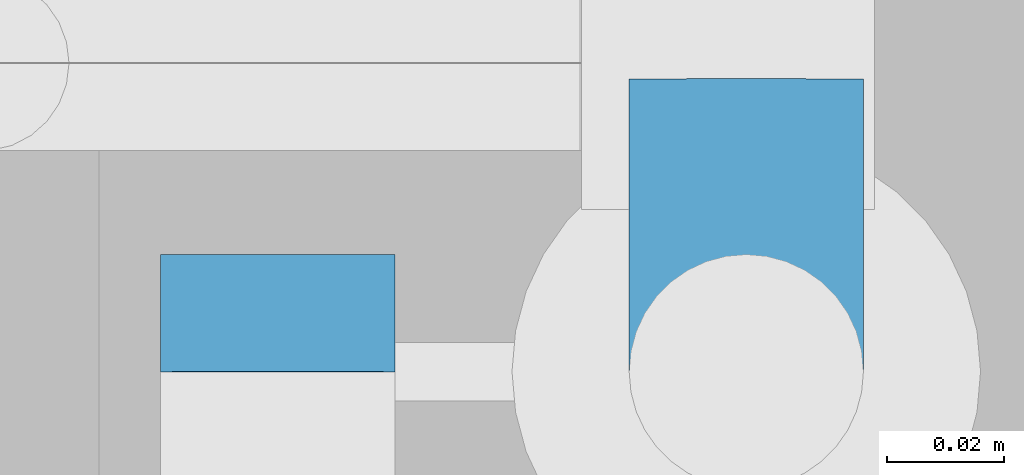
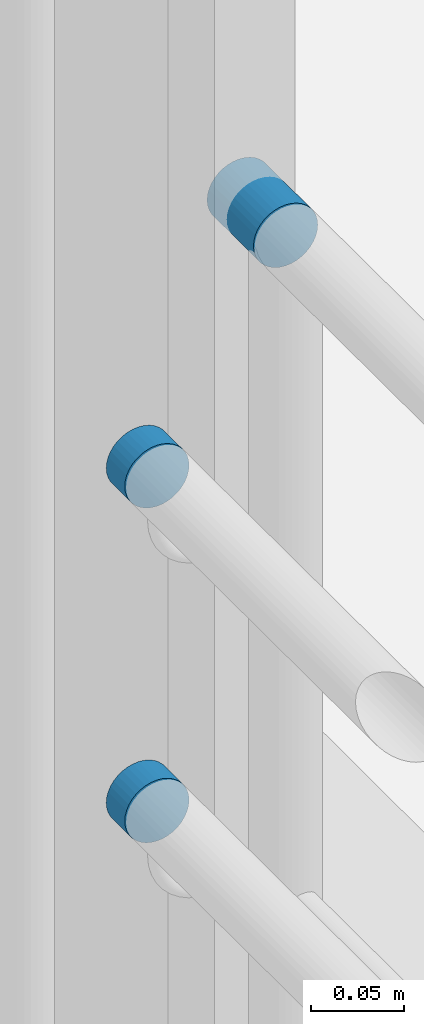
# One storey, part 147 of 237: 3 building element parts, 1 element without a shape of its own.
"""IFC2X3 building model written with IfcOpenShell, lengths in millimetres."""

from ifc_helpers import new_model, entity, si_unit, converted_unit, derived_unit, money_unit, direction, frame, origin_with_axes, place, context, subcontext, project, spatial, faceted_brep, material, type_object, element, aggregate, save


model = new_model("IFC2X3")

# Units and contexts
model_context = context("Model", 3, precision=0.01, world=origin_with_axes(), true_north=direction((0.0, 1.0)))
body_context = subcontext(model_context, "Body", "Model", "MODEL_VIEW")
ifc_project = project(units=[si_unit("LENGTHUNIT", "METRE", prefix="MILLI"), si_unit("AREAUNIT", "SQUARE_METRE"), si_unit("VOLUMEUNIT", "CUBIC_METRE"), converted_unit("PLANEANGLEUNIT", "DEGREE", entity("IfcPlaneAngleMeasure", 0.0174532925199), si_unit("PLANEANGLEUNIT", "RADIAN"), dimensions=[0, 0, 0, 0, 0, 0, 0]), money_unit("USD"), converted_unit("TIMEUNIT", "Year", entity("IfcTimeMeasure", 31556926.0), si_unit("TIMEUNIT", "SECOND"), dimensions=[0, 0, 1, 0, 0, 0, 0]), si_unit("MASSUNIT", "GRAM", prefix="KILO"), si_unit("THERMODYNAMICTEMPERATUREUNIT", "DEGREE_CELSIUS"), si_unit("LUMINOUSINTENSITYUNIT", "LUMEN"), si_unit("ENERGYUNIT", "JOULE", prefix="MEGA"), derived_unit("THERMALCONDUCTANCEUNIT", [(si_unit("POWERUNIT", "WATT"), 1), (si_unit("LENGTHUNIT", "METRE"), -1), (si_unit("THERMODYNAMICTEMPERATUREUNIT", "KELVIN"), -1)]), derived_unit("SPECIFICHEATCAPACITYUNIT", [(si_unit("ENERGYUNIT", "JOULE"), 1), (si_unit("MASSUNIT", "GRAM", prefix="KILO"), -1), (si_unit("THERMODYNAMICTEMPERATUREUNIT", "KELVIN"), -1)]), derived_unit("MASSDENSITYUNIT", [(si_unit("MASSUNIT", "GRAM", prefix="KILO"), 1), (si_unit("VOLUMEUNIT", "CUBIC_METRE"), -1)])], contexts=[model_context])

# Site, building, storey
site_placement = place(None, origin_with_axes())
site = spatial("IfcSite", under=ifc_project, at=site_placement, Name="Local", CompositionType="ELEMENT")
building_placement = place(site_placement, origin_with_axes())
building = spatial("IfcBuilding", under=site, at=building_placement, Name="Construção", CompositionType="ELEMENT")
storey_placement = place(building_placement, origin_with_axes())
storey = spatial("IfcBuildingStorey", under=building, at=storey_placement, Name="Pavimento Térreo", CompositionType="ELEMENT", Elevation=0.0)

# Railing, building element parts
railing_type = type_object("IfcRailingType", Name="Tipo de Guarda-Corpo", PredefinedType="NOTDEFINED")
railing_placement = place(storey_placement, frame((84562.8908804, 21657.2175927, -4868.39227091), z_axis=(0.0, 0.0, 1.0), x_axis=(1.0, 0.0, 0.0)))
railing = element("IfcRailing", 1, at=railing_placement, inside=storey, type_object=railing_type, Name="Guarda-Corpo - 002", PredefinedType="NOTDEFINED")
ifc_material = material(Name="Aço - Inoxidável")
building_element_part_1_placement = place(railing_placement, origin_with_axes())
building_element_part_1 = element("IfcBuildingElementPart", 2, at=building_element_part_1_placement, material=ifc_material, Name="Aço - Inoxidável", context=body_context, shape_type="Brep", body=[
    faceted_brep([(2010.50016915, 5592.1917422, 2028.38433584), (2010.80401409, 5592.20155853, 2031.85728552), (2010.80401409, 5612.20147864, 2031.8007555), (2010.50016915, 5612.1916623, 2028.32780582), (2010.80401409, 5592.18192586, 2024.91138616), (2011.70631674, 5592.17240779, 2021.54396029), (2013.17966108, 5592.16347719, 2018.38437578), (2015.17928029, 5592.1554054, 2015.528635), (2017.64441696, 5592.14843769, 2013.06350817), (2020.50016915, 5592.14278577, 2011.06389695), (2023.65976628, 5592.13862136, 2009.59055849), (2027.0272056, 5592.136071, 2008.68825945), (2030.50016915, 5592.13521218, 2008.38441573), (2033.9731327, 5592.136071, 2008.68825945), (2037.34057202, 5592.13862136, 2009.59055849), (2040.50016915, 5592.14278577, 2011.06389695), (2043.35592134, 5592.14843769, 2013.06350817), (2045.82105801, 5592.1554054, 2015.528635), (2047.82067723, 5592.16347719, 2018.38437578), (2049.29402157, 5592.17240779, 2021.54396029), (2050.19632421, 5592.18192586, 2024.91138616), (2050.50016915, 5592.1917422, 2028.38433584), (2050.19632421, 5592.20155853, 2031.85728552), (2049.29402157, 5592.2110766, 2035.22471138), (2047.82067723, 5592.2200072, 2038.38429589), (2045.82105801, 5592.22807899, 2041.24003668), (2043.35592134, 5592.2350467, 2043.7051635), (2040.50016915, 5592.24069862, 2045.70477472), (2037.34057202, 5592.24486303, 2047.17811318), (2033.9731327, 5592.24741339, 2048.08041222), (2030.50016915, 5592.24827221, 2048.38425594), (2027.0272056, 5592.24741339, 2048.08041222), (2023.65976628, 5592.24486303, 2047.17811318), (2020.50016915, 5592.24069862, 2045.70477472), (2017.64441696, 5592.2350467, 2043.7051635), (2015.17928029, 5592.22807899, 2041.24003668), (2013.17966108, 5592.2200072, 2038.38429589), (2011.70631674, 5592.2110766, 2035.22471138), (2011.70631674, 5612.21099671, 2035.16818136), (2013.17966108, 5612.21992731, 2038.32776588), (2015.17928029, 5612.2279991, 2041.18350666), (2017.64441696, 5612.23496681, 2043.64863348), (2020.50016915, 5612.24061873, 2045.64824471), (2023.65976628, 5612.24478314, 2047.12158316), (2027.0272056, 5612.2473335, 2048.0238822), (2030.50016915, 5612.24819232, 2048.32772593), (2033.9731327, 5612.2473335, 2048.0238822), (2037.34057202, 5612.24478314, 2047.12158316), (2040.50016915, 5612.24061873, 2045.64824471), (2043.35592134, 5612.23496681, 2043.64863348), (2045.82105801, 5612.2279991, 2041.18350666), (2047.82067723, 5612.21992731, 2038.32776588), (2049.29402157, 5612.21099671, 2035.16818136), (2050.19632421, 5612.20147864, 2031.8007555), (2050.50016915, 5612.1916623, 2028.32780582), (2050.19632421, 5612.18184597, 2024.85485614), (2049.29402157, 5612.1723279, 2021.48743028), (2047.82067723, 5612.1633973, 2018.32784577), (2045.82105801, 5612.15532551, 2015.47210498), (2043.35592134, 5612.1483578, 2013.00697816), (2040.50016915, 5612.14270588, 2011.00736693), (2037.34057202, 5612.13854147, 2009.53402848), (2033.9731327, 5612.13599111, 2008.63172944), (2030.50016915, 5612.13513229, 2008.32788571), (2027.0272056, 5612.13599111, 2008.63172944), (2023.65976628, 5612.13854147, 2009.53402848), (2020.50016915, 5612.14270588, 2011.00736693), (2017.64441696, 5612.1483578, 2013.00697816), (2015.17928029, 5612.15532551, 2015.47210498), (2013.17966108, 5612.1633973, 2018.32784577), (2011.70631674, 5612.1723279, 2021.48743028), (2010.80401409, 5612.18184597, 2024.85485614)], [[[0, 1, 2, 3]], [[0, 4, 5, 6, 7, 8, 9, 10, 11, 12, 13, 14, 15, 16, 17, 18, 19, 20, 21, 22, 23, 24, 25, 26, 27, 28, 29, 30, 31, 32, 33, 34, 35, 36, 37, 1]], [[1, 37, 38, 2]], [[3, 2, 38, 39, 40, 41, 42, 43, 44, 45, 46, 47, 48, 49, 50, 51, 52, 53, 54, 55, 56, 57, 58, 59, 60, 61, 62, 63, 64, 65, 66, 67, 68, 69, 70, 71]], [[4, 0, 3, 71]], [[5, 4, 71, 70]], [[6, 5, 70, 69]], [[7, 6, 69, 68]], [[8, 7, 68, 67]], [[9, 8, 67, 66]], [[10, 9, 66, 65]], [[11, 10, 65, 64]], [[12, 11, 64, 63]], [[13, 12, 63, 62]], [[14, 13, 62, 61]], [[15, 14, 61, 60]], [[16, 15, 60, 59]], [[17, 16, 59, 58]], [[18, 17, 58, 57]], [[19, 18, 57, 56]], [[20, 19, 56, 55]], [[21, 20, 55, 54]], [[22, 21, 54, 53]], [[23, 22, 53, 52]], [[24, 23, 52, 51]], [[25, 24, 51, 50]], [[26, 25, 50, 49]], [[27, 26, 49, 48]], [[28, 27, 48, 47]], [[29, 28, 47, 46]], [[30, 29, 46, 45]], [[31, 30, 45, 44]], [[32, 31, 44, 43]], [[33, 32, 43, 42]], [[34, 33, 42, 41]], [[35, 34, 41, 40]], [[36, 35, 40, 39]], [[37, 36, 39, 38]]]),
])
building_element_part_2_placement = place(railing_placement, origin_with_axes())
building_element_part_2 = element("IfcBuildingElementPart", 3, at=building_element_part_2_placement, material=ifc_material, Name="Aço - Inoxidável", context=body_context, shape_type="Brep", body=[
    faceted_brep([(2010.50016915, 5592.1917422, 2248.38433584), (2010.80401409, 5592.20155853, 2251.85728552), (2010.80401409, 5612.20147864, 2251.8007555), (2010.50016915, 5612.1916623, 2248.32780582), (2010.80401409, 5592.18192586, 2244.91138616), (2011.70631674, 5592.17240779, 2241.54396029), (2013.17966108, 5592.16347719, 2238.38437578), (2015.17928029, 5592.1554054, 2235.528635), (2017.64441696, 5592.14843769, 2233.06350817), (2020.50016915, 5592.14278577, 2231.06389695), (2023.65976628, 5592.13862136, 2229.59055849), (2027.0272056, 5592.136071, 2228.68825945), (2030.50016915, 5592.13521218, 2228.38441573), (2033.9731327, 5592.136071, 2228.68825945), (2037.34057202, 5592.13862136, 2229.59055849), (2040.50016915, 5592.14278577, 2231.06389695), (2043.35592134, 5592.14843769, 2233.06350817), (2045.82105801, 5592.1554054, 2235.528635), (2047.82067723, 5592.16347719, 2238.38437578), (2049.29402157, 5592.17240779, 2241.54396029), (2050.19632421, 5592.18192586, 2244.91138616), (2050.50016915, 5592.1917422, 2248.38433584), (2050.19632421, 5592.20155853, 2251.85728552), (2049.29402157, 5592.2110766, 2255.22471138), (2047.82067723, 5592.2200072, 2258.38429589), (2045.82105801, 5592.22807899, 2261.24003668), (2043.35592134, 5592.2350467, 2263.7051635), (2040.50016915, 5592.24069862, 2265.70477472), (2037.34057202, 5592.24486303, 2267.17811318), (2033.9731327, 5592.24741339, 2268.08041222), (2030.50016915, 5592.24827221, 2268.38425594), (2027.0272056, 5592.24741339, 2268.08041222), (2023.65976628, 5592.24486303, 2267.17811318), (2020.50016915, 5592.24069862, 2265.70477472), (2017.64441696, 5592.2350467, 2263.7051635), (2015.17928029, 5592.22807899, 2261.24003668), (2013.17966108, 5592.2200072, 2258.38429589), (2011.70631674, 5592.2110766, 2255.22471138), (2011.70631674, 5612.21099671, 2255.16818136), (2013.17966108, 5612.21992731, 2258.32776588), (2015.17928029, 5612.2279991, 2261.18350666), (2017.64441696, 5612.23496681, 2263.64863348), (2020.50016915, 5612.24061873, 2265.64824471), (2023.65976628, 5612.24478314, 2267.12158316), (2027.0272056, 5612.2473335, 2268.0238822), (2030.50016915, 5612.24819232, 2268.32772593), (2033.9731327, 5612.2473335, 2268.0238822), (2037.34057202, 5612.24478314, 2267.12158316), (2040.50016915, 5612.24061873, 2265.64824471), (2043.35592134, 5612.23496681, 2263.64863348), (2045.82105801, 5612.2279991, 2261.18350666), (2047.82067723, 5612.21992731, 2258.32776588), (2049.29402157, 5612.21099671, 2255.16818136), (2050.19632421, 5612.20147864, 2251.8007555), (2050.50016915, 5612.1916623, 2248.32780582), (2050.19632421, 5612.18184597, 2244.85485614), (2049.29402157, 5612.1723279, 2241.48743028), (2047.82067723, 5612.1633973, 2238.32784577), (2045.82105801, 5612.15532551, 2235.47210498), (2043.35592134, 5612.1483578, 2233.00697816), (2040.50016915, 5612.14270588, 2231.00736693), (2037.34057202, 5612.13854147, 2229.53402848), (2033.9731327, 5612.13599111, 2228.63172944), (2030.50016915, 5612.13513229, 2228.32788571), (2027.0272056, 5612.13599111, 2228.63172944), (2023.65976628, 5612.13854147, 2229.53402848), (2020.50016915, 5612.14270588, 2231.00736693), (2017.64441696, 5612.1483578, 2233.00697816), (2015.17928029, 5612.15532551, 2235.47210498), (2013.17966108, 5612.1633973, 2238.32784577), (2011.70631674, 5612.1723279, 2241.48743028), (2010.80401409, 5612.18184597, 2244.85485614)], [[[0, 1, 2, 3]], [[0, 4, 5, 6, 7, 8, 9, 10, 11, 12, 13, 14, 15, 16, 17, 18, 19, 20, 21, 22, 23, 24, 25, 26, 27, 28, 29, 30, 31, 32, 33, 34, 35, 36, 37, 1]], [[1, 37, 38, 2]], [[3, 2, 38, 39, 40, 41, 42, 43, 44, 45, 46, 47, 48, 49, 50, 51, 52, 53, 54, 55, 56, 57, 58, 59, 60, 61, 62, 63, 64, 65, 66, 67, 68, 69, 70, 71]], [[4, 0, 3, 71]], [[5, 4, 71, 70]], [[6, 5, 70, 69]], [[7, 6, 69, 68]], [[8, 7, 68, 67]], [[9, 8, 67, 66]], [[10, 9, 66, 65]], [[11, 10, 65, 64]], [[12, 11, 64, 63]], [[13, 12, 63, 62]], [[14, 13, 62, 61]], [[15, 14, 61, 60]], [[16, 15, 60, 59]], [[17, 16, 59, 58]], [[18, 17, 58, 57]], [[19, 18, 57, 56]], [[20, 19, 56, 55]], [[21, 20, 55, 54]], [[22, 21, 54, 53]], [[23, 22, 53, 52]], [[24, 23, 52, 51]], [[25, 24, 51, 50]], [[26, 25, 50, 49]], [[27, 26, 49, 48]], [[28, 27, 48, 47]], [[29, 28, 47, 46]], [[30, 29, 46, 45]], [[31, 30, 45, 44]], [[32, 31, 44, 43]], [[33, 32, 43, 42]], [[34, 33, 42, 41]], [[35, 34, 41, 40]], [[36, 35, 40, 39]], [[37, 36, 39, 38]]]),
])
building_element_part_3_placement = place(railing_placement, origin_with_axes())
building_element_part_3 = element("IfcBuildingElementPart", 4, at=building_element_part_3_placement, material=ifc_material, Name="Aço - Inoxidável", context=body_context, shape_type="Brep", body=[
    faceted_brep([(2090.50016915, 5592.1917422, 2378.38433584), (2090.80401409, 5592.20155853, 2381.85728552), (2090.80401409, 5642.2013588, 2381.71596048), (2090.50016915, 5642.19154247, 2378.2430108), (2090.80401409, 5592.18192586, 2374.91138616), (2091.70631674, 5592.17240779, 2371.54396029), (2093.17966108, 5592.16347719, 2368.38437578), (2095.17928029, 5592.1554054, 2365.528635), (2097.64441696, 5592.14843769, 2363.06350817), (2100.50016915, 5592.14278577, 2361.06389695), (2103.65976628, 5592.13862136, 2359.59055849), (2107.0272056, 5592.136071, 2358.68825945), (2110.50016915, 5592.13521218, 2358.38441573), (2113.9731327, 5592.136071, 2358.68825945), (2117.34057202, 5592.13862136, 2359.59055849), (2120.50016915, 5592.14278577, 2361.06389695), (2123.35592134, 5592.14843769, 2363.06350817), (2125.82105801, 5592.1554054, 2365.528635), (2127.82067723, 5592.16347719, 2368.38437578), (2129.29402157, 5592.17240779, 2371.54396029), (2130.19632421, 5592.18192586, 2374.91138616), (2130.50016915, 5592.1917422, 2378.38433584), (2130.19632421, 5592.20155853, 2381.85728552), (2129.29402157, 5592.2110766, 2385.22471138), (2127.82067723, 5592.2200072, 2388.38429589), (2125.82105801, 5592.22807899, 2391.24003668), (2123.35592134, 5592.2350467, 2393.7051635), (2120.50016915, 5592.24069862, 2395.70477472), (2117.34057202, 5592.24486303, 2397.17811318), (2113.9731327, 5592.24741339, 2398.08041222), (2110.50016915, 5592.24827221, 2398.38425594), (2107.0272056, 5592.24741339, 2398.08041222), (2103.65976628, 5592.24486303, 2397.17811318), (2100.50016915, 5592.24069862, 2395.70477472), (2097.64441696, 5592.2350467, 2393.7051635), (2095.17928029, 5592.22807899, 2391.24003668), (2093.17966108, 5592.2200072, 2388.38429589), (2091.70631674, 5592.2110766, 2385.22471138), (2091.70631674, 5642.21087687, 2385.08338634), (2093.17966108, 5642.21980748, 2388.24297085), (2095.17928029, 5642.22787926, 2391.09871164), (2097.64441696, 5642.23484697, 2393.56383846), (2100.50016915, 5642.2404989, 2395.56344969), (2103.65976628, 5642.24466331, 2397.03678814), (2107.0272056, 5642.24721366, 2397.93908718), (2110.50016915, 5642.24807248, 2398.24293091), (2113.9731327, 5642.24721366, 2397.93908718), (2117.34057202, 5642.24466331, 2397.03678814), (2120.50016915, 5642.2404989, 2395.56344969), (2123.35592134, 5642.23484697, 2393.56383846), (2125.82105801, 5642.22787926, 2391.09871164), (2127.82067723, 5642.21980748, 2388.24297085), (2129.29402157, 5642.21087687, 2385.08338634), (2130.19632421, 5642.2013588, 2381.71596048), (2130.50016915, 5642.19154247, 2378.2430108), (2130.19632421, 5642.18172613, 2374.77006112), (2129.29402157, 5642.17220806, 2371.40263526), (2127.82067723, 5642.16327746, 2368.24305075), (2125.82105801, 5642.15520568, 2365.38730996), (2123.35592134, 5642.14823796, 2362.92218314), (2120.50016915, 5642.14258604, 2360.92257191), (2117.34057202, 5642.13842163, 2359.44923346), (2113.9731327, 5642.13587127, 2358.54693442), (2110.50016915, 5642.13501245, 2358.24309069), (2107.0272056, 5642.13587127, 2358.54693442), (2103.65976628, 5642.13842163, 2359.44923346), (2100.50016915, 5642.14258604, 2360.92257191), (2097.64441696, 5642.14823796, 2362.92218314), (2095.17928029, 5642.15520568, 2365.38730996), (2093.17966108, 5642.16327746, 2368.24305075), (2091.70631674, 5642.17220806, 2371.40263526), (2090.80401409, 5642.18172613, 2374.77006112)], [[[0, 1, 2, 3]], [[0, 4, 5, 6, 7, 8, 9, 10, 11, 12, 13, 14, 15, 16, 17, 18, 19, 20, 21, 22, 23, 24, 25, 26, 27, 28, 29, 30, 31, 32, 33, 34, 35, 36, 37, 1]], [[1, 37, 38, 2]], [[3, 2, 38, 39, 40, 41, 42, 43, 44, 45, 46, 47, 48, 49, 50, 51, 52, 53, 54, 55, 56, 57, 58, 59, 60, 61, 62, 63, 64, 65, 66, 67, 68, 69, 70, 71]], [[4, 0, 3, 71]], [[5, 4, 71, 70]], [[6, 5, 70, 69]], [[7, 6, 69, 68]], [[8, 7, 68, 67]], [[9, 8, 67, 66]], [[10, 9, 66, 65]], [[11, 10, 65, 64]], [[12, 11, 64, 63]], [[13, 12, 63, 62]], [[14, 13, 62, 61]], [[15, 14, 61, 60]], [[16, 15, 60, 59]], [[17, 16, 59, 58]], [[18, 17, 58, 57]], [[19, 18, 57, 56]], [[20, 19, 56, 55]], [[21, 20, 55, 54]], [[22, 21, 54, 53]], [[23, 22, 53, 52]], [[24, 23, 52, 51]], [[25, 24, 51, 50]], [[26, 25, 50, 49]], [[27, 26, 49, 48]], [[28, 27, 48, 47]], [[29, 28, 47, 46]], [[30, 29, 46, 45]], [[31, 30, 45, 44]], [[32, 31, 44, 43]], [[33, 32, 43, 42]], [[34, 33, 42, 41]], [[35, 34, 41, 40]], [[36, 35, 40, 39]], [[37, 36, 39, 38]]]),
])
aggregate(railing, [building_element_part_1, building_element_part_2, building_element_part_3])

save(model, "model.ifc")
